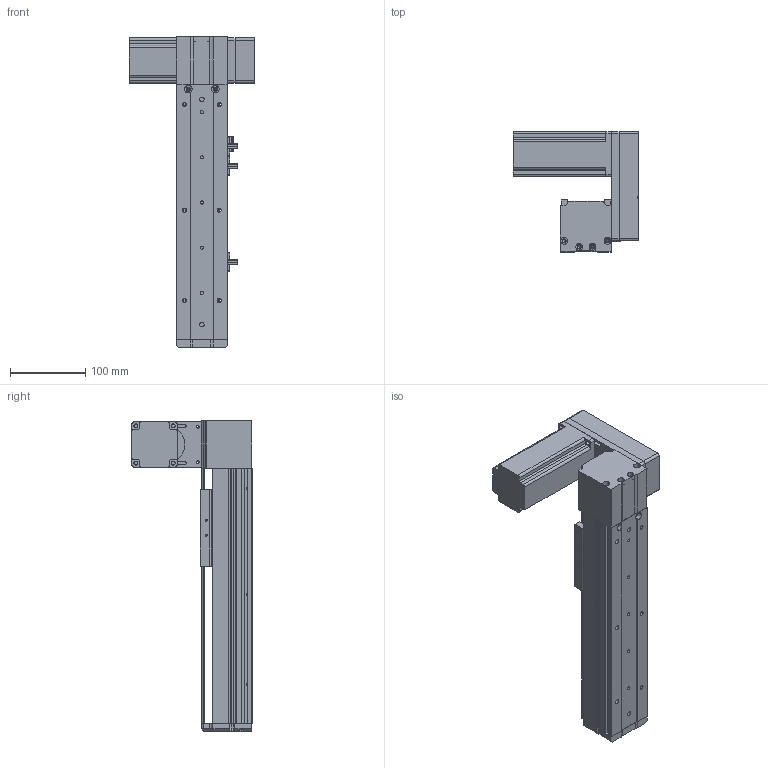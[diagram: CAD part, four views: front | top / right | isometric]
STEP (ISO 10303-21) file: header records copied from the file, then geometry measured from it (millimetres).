
FILE_DESCRIPTION (( 'STEP AP214' ), '1' );
FILE_NAME ('KSD68BS-S150-MLU-CM.STEP', '2019-11-05T03:47:22', ( '微软用户' ), ( '微软中国' ), 'SwSTEP 2.0', 'SolidWorks 2014', '' );
FILE_SCHEMA (( 'AUTOMOTIVE_DESIGN' ));
Length unit declared in the file: millimetre
Products named in the file (11): 68单导轨同步带半封闭端板; KSD68BS150俴最裔啣圉猾敕; 覜茼え68遵圉猾敕; KSD68BS半封闭同步带传动导轨座; U倰嫖萇EEㄜSX672; 台达ECMA－C20604AS伺服电机（400W); KSD68BS 150俴最菁啣圉猾敕; KSD68BS-S150-MLU-CM; 悵誘欶奻狟殏; 68宽马达安装板连板上折同步带; 68宽单导轨半封闭同步带主动轮座左
Assembly tree (12 placements, depth 2):
  KSD68BS-S150-MLU-CM
    KSD68BS 150俴最菁啣圉猾敕
    台达ECMA－C20604AS伺服电机（400W)
    U倰嫖萇EEㄜSX672  x3
    KSD68BS半封闭同步带传动导轨座
    覜茼え68遵圉猾敕
    KSD68BS150俴最裔啣圉猾敕
    68单导轨同步带半封闭端板
    68宽单导轨半封闭同步带主动轮座左
    68宽马达安装板连板上折同步带
    悵誘欶奻狟殏
Bounding box: 167.2 x 159.5 x 412 mm (x, y, z)
Volume: 1300099.2 mm3; surface area: 378470.9 mm2
Topology: 13 solids, 13 shells, 1172 faces, 3278 edges, 2124 vertices
Faces by surface type: plane 549, cylinder 540, cone 83
Entity records: 39630 total; most frequent: CARTESIAN_POINT 6886, DIRECTION 5414, ORIENTED_EDGE 5308, EDGE_CURVE 2654, AXIS2_PLACEMENT_3D 1924, VERTEX_POINT 1748, VECTOR 1566, LINE 1566
